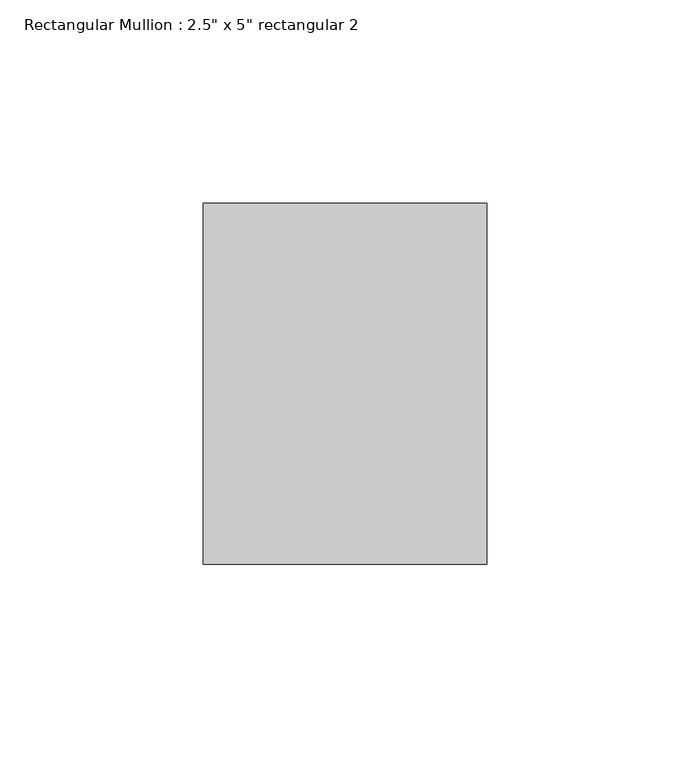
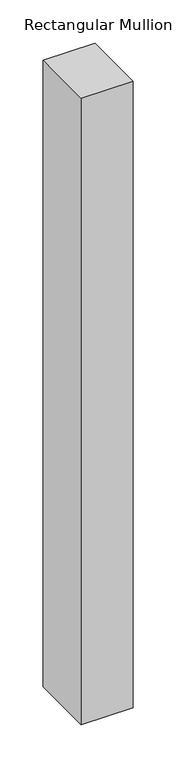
"""IFC4 building model written with IfcOpenShell, lengths in millimetres: member geometry."""

from ifc_helpers import new_model, si_unit, frame, origin, place, context, project, spatial, polyline, outline, extrude, source, transform, mapped, element, save


def member_274769e7(model_context):
    return source(origin(), model_context, "Body", "SweptSolid", [
        extrude(outline(polyline([(0.0, 44.45), (0.0, -44.45), (-69.85, -44.45), (-69.85, 44.45), (0.0, 44.45)])), frame((0.0, 0.0, -889.0), z_axis=(0.0, 0.0, 1.0), x_axis=(1.0, 0.0, 0.0)), (0.0, 0.0, 1.0), 889.0),
    ])


if __name__ == "__main__":
    model = new_model("IFC4")
    model_context = context("Model", 3, world=origin())
    ifc_project = project(units=[si_unit("LENGTHUNIT", "METRE", prefix="MILLI")], contexts=[model_context])
    site = spatial("IfcSite", under=ifc_project)
    building = spatial("IfcBuilding", under=site)
    placement = place(None, origin())
    member_shape = member_274769e7(model_context)
    element("IfcMember", 1, ObjectType="Rectangular Mullion : 2.5\" x 5\" rectangular 2", at=placement, inside=building, context=model_context, shape_type="MappedRepresentation", body=[
        mapped(member_shape, transform((0.0, 0.0, 0.0), x_axis=(1.0, 0.0, 0.0), y_axis=(0.0, 1.0, 0.0), z_axis=(0.0, 0.0, 1.0))),
    ])
    save(model, "model.ifc")
